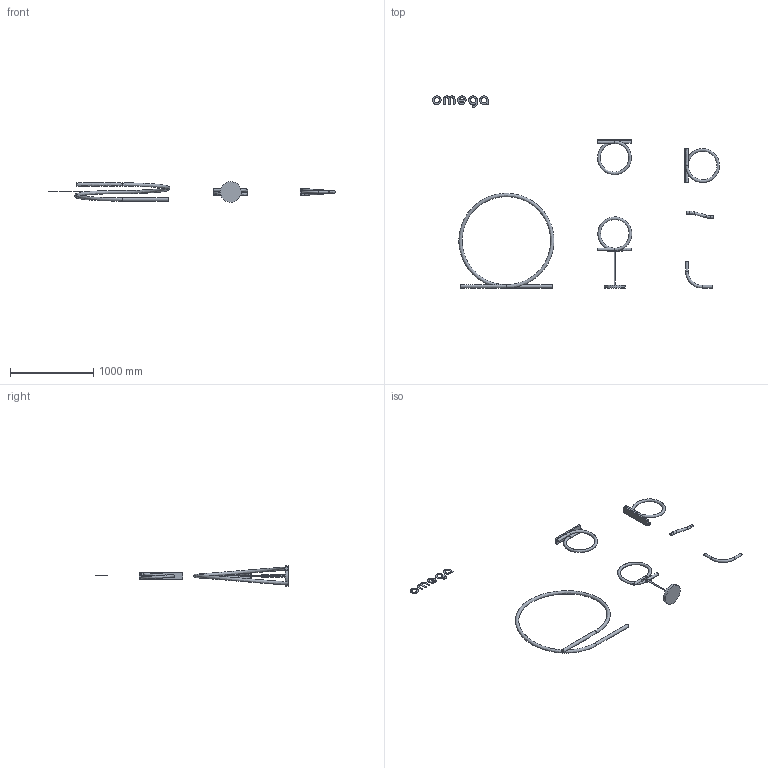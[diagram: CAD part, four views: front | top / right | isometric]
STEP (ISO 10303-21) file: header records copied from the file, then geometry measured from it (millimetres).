
FILE_DESCRIPTION(/* description */ (''),/* implementation_level */ '2;1');
FILE_NAME(/* name */ 'omega',/* time_stamp */ '2026-01-07T14:57:00+01:00',/* author */ (''),/* organization */ (''),/* preprocessor_version */ 'ST-DEVELOPER v19.2',/* originating_system */ 'Rhino 8.26',/* authorisation */ '');
FILE_SCHEMA (('CONFIG_CONTROL_DESIGN'));
Length unit declared in the file: millimetre
Products named in the file (1): Document
Bounding box: 3444.58 x 2305.87 x 249.79 mm (x, y, z)
Volume: 12150547.3 mm3; surface area: 1513700.6 mm2
Topology: 10 solids, 16 shells, 76 faces, 266 edges, 301 vertices
Faces by surface type: plane 40, cylinder 23, bspline 13
Full cylindrical faces by diameter (mm): 14.941 x1, 32 x6, 40 x1, 250 x1
Entity records: 8480 total; most frequent: CARTESIAN_POINT 6919, ORIENTED_EDGE 311, DIRECTION 185, EDGE_CURVE 174, B_SPLINE_CURVE_WITH_KNOTS 134, VERTEX_POINT 124, AXIS2_PLACEMENT_3D 124, EDGE_LOOP 80
